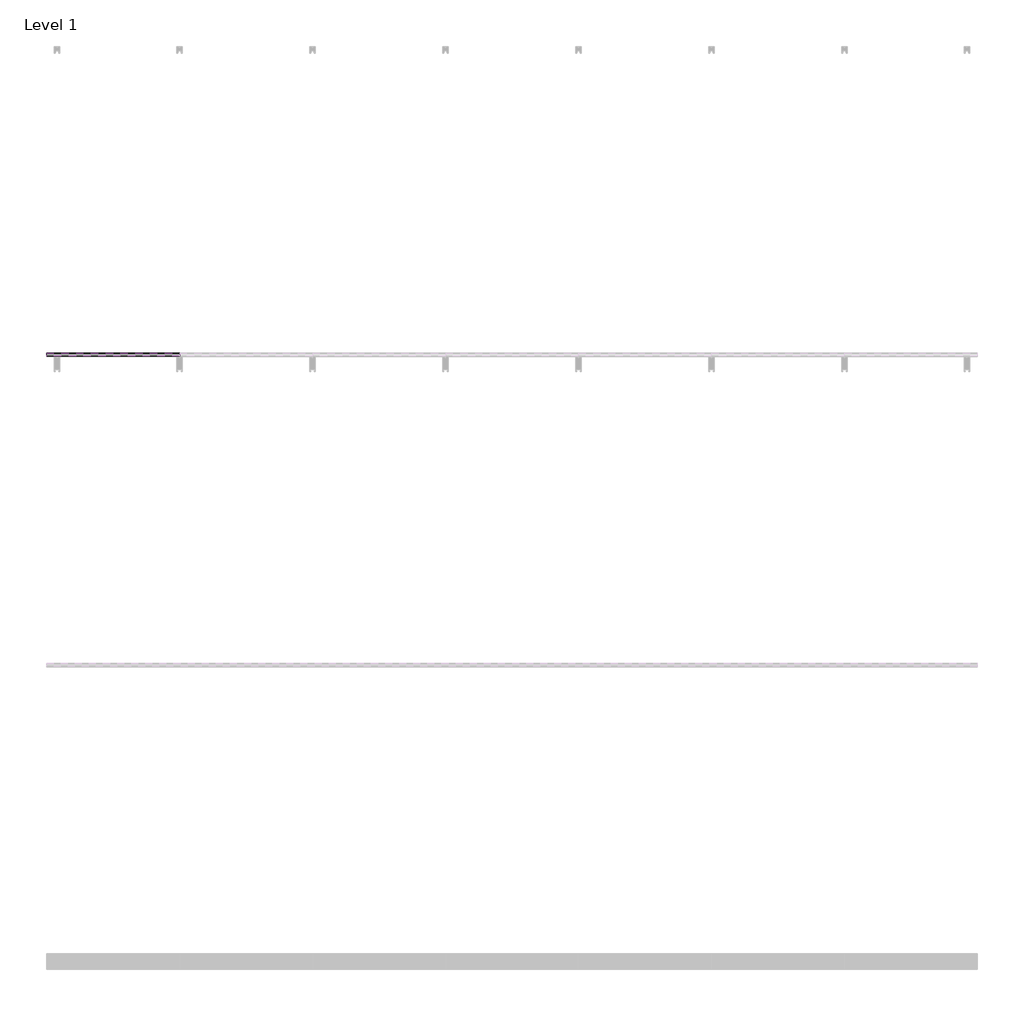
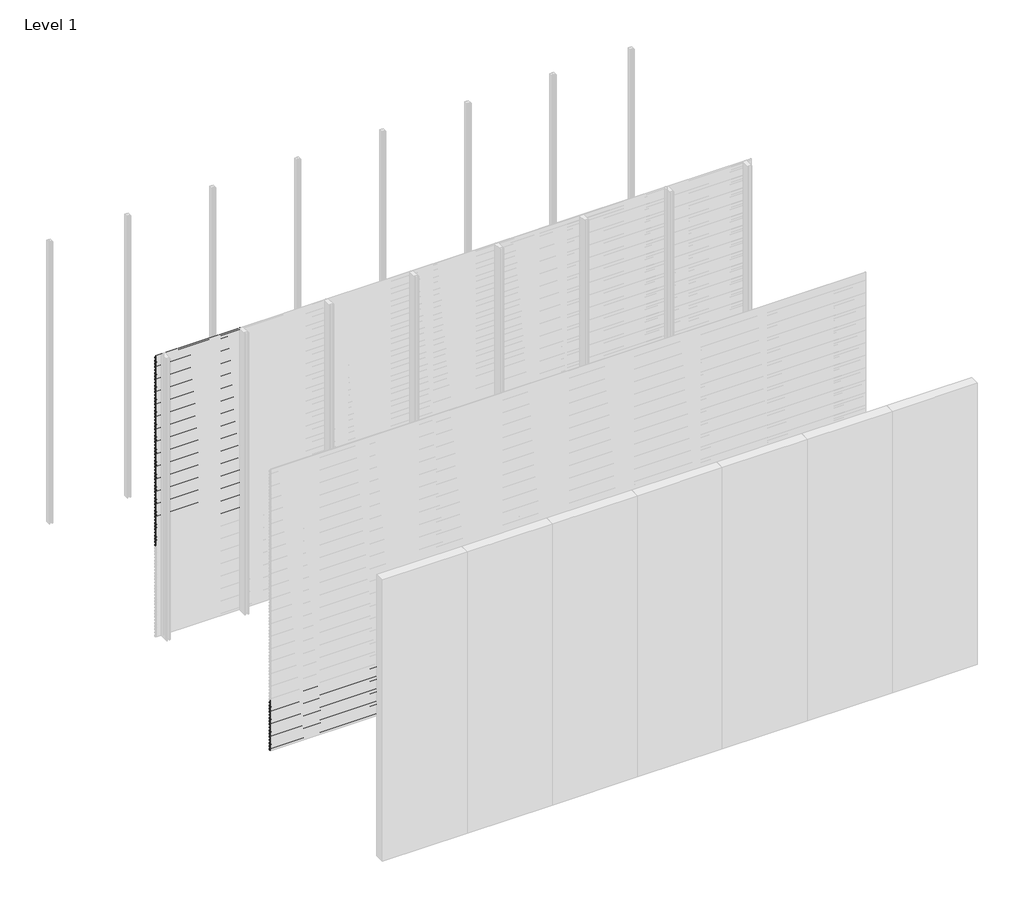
# One storey, part 61 of 96: 77 proxies.
"""IFC4 building model written with IfcOpenShell, lengths in millimetres."""

from ifc_helpers import new_model, si_unit, frame, origin, place, context, project, spatial, polyline, outline, extrude, element, save

model = new_model("IFC4")

# Units and contexts
model_context = context("Model", 3, world=origin())
ifc_project = project(units=[si_unit("LENGTHUNIT", "METRE", prefix="MILLI")], contexts=[model_context])

# Site, building, storey
site = spatial("IfcSite", under=ifc_project)
building = spatial("IfcBuilding", under=site)
storey = spatial("IfcBuildingStorey", under=building, Name="Level 1", Elevation=0.0)

# Proxies
placement = place(None, origin())
element("IfcBuildingElementProxy", 1, Name="Wall Sweeps", at=placement, inside=storey, context=model_context, shape_type="SweptSolid", body=[
    extrude(outline(polyline([(-17977.6, 2971.7655033), (-17977.6, 2957.4779188), (-17982.4114965, 2954.7), (-17982.4114965, 2955.9701706), (-17978.85, 2958.0264016), (-17978.85, 2971.0437382), (-17998.0, 2982.1000799), (-17998.0, 2997.0), (-17996.75, 2997.0), (-17996.75, 2982.8217609), (-17977.6, 2971.7655033)])), frame((0.0, 0.0, 0.0), z_axis=(1.0, 0.0, 0.0), x_axis=(0.0, 1.0, 0.0)), (0.0, 0.0, 1.0), 857.1428571),
])
element("IfcBuildingElementProxy", 2, Name="Wall Sweeps", at=placement, inside=storey, context=model_context, shape_type="SweptSolid", body=[
    extrude(outline(polyline([(-17977.6, 2938.4655033), (-17977.6, 2924.1779188), (-17982.4114965, 2921.4), (-17982.4114965, 2922.6701706), (-17978.85, 2924.7264016), (-17978.85, 2937.7437382), (-17998.0, 2948.8000799), (-17998.0, 2963.7), (-17996.75, 2963.7), (-17996.75, 2949.5217609), (-17977.6, 2938.4655033)])), frame((0.0, 0.0, 0.0), z_axis=(1.0, 0.0, 0.0), x_axis=(0.0, 1.0, 0.0)), (0.0, 0.0, 1.0), 857.1428571),
])
element("IfcBuildingElementProxy", 3, Name="Wall Sweeps", at=placement, inside=storey, context=model_context, shape_type="SweptSolid", body=[
    extrude(outline(polyline([(-17977.6, 2905.1655033), (-17977.6, 2890.8779188), (-17982.4114965, 2888.1), (-17982.4114965, 2889.3701706), (-17978.85, 2891.4264016), (-17978.85, 2904.4437382), (-17998.0, 2915.5000799), (-17998.0, 2930.4), (-17996.75, 2930.4), (-17996.75, 2916.2217609), (-17977.6, 2905.1655033)])), frame((0.0, 0.0, 0.0), z_axis=(1.0, 0.0, 0.0), x_axis=(0.0, 1.0, 0.0)), (0.0, 0.0, 1.0), 857.1428571),
])
element("IfcBuildingElementProxy", 4, Name="Wall Sweeps", at=placement, inside=storey, context=model_context, shape_type="SweptSolid", body=[
    extrude(outline(polyline([(-17977.6, 2871.8655033), (-17977.6, 2857.5779188), (-17982.4114965, 2854.8), (-17982.4114965, 2856.0701706), (-17978.85, 2858.1264016), (-17978.85, 2871.1437382), (-17998.0, 2882.2000799), (-17998.0, 2897.1), (-17996.75, 2897.1), (-17996.75, 2882.9217609), (-17977.6, 2871.8655033)])), frame((0.0, 0.0, 0.0), z_axis=(1.0, 0.0, 0.0), x_axis=(0.0, 1.0, 0.0)), (0.0, 0.0, 1.0), 857.1428571),
])
element("IfcBuildingElementProxy", 5, Name="Wall Sweeps", at=placement, inside=storey, context=model_context, shape_type="SweptSolid", body=[
    extrude(outline(polyline([(-17977.6, 2838.5655033), (-17977.6, 2824.2779188), (-17982.4114965, 2821.5), (-17982.4114965, 2822.7701706), (-17978.85, 2824.8264016), (-17978.85, 2837.8437382), (-17998.0, 2848.9000799), (-17998.0, 2863.8), (-17996.75, 2863.8), (-17996.75, 2849.6217609), (-17977.6, 2838.5655033)])), frame((0.0, 0.0, 0.0), z_axis=(1.0, 0.0, 0.0), x_axis=(0.0, 1.0, 0.0)), (0.0, 0.0, 1.0), 857.1428571),
])
element("IfcBuildingElementProxy", 6, Name="Wall Sweeps", at=placement, inside=storey, context=model_context, shape_type="SweptSolid", body=[
    extrude(outline(polyline([(-17977.6, 2805.2655033), (-17977.6, 2790.9779188), (-17982.4114965, 2788.2), (-17982.4114965, 2789.4701706), (-17978.85, 2791.5264016), (-17978.85, 2804.5437382), (-17998.0, 2815.6000799), (-17998.0, 2830.5), (-17996.75, 2830.5), (-17996.75, 2816.3217609), (-17977.6, 2805.2655033)])), frame((0.0, 0.0, 0.0), z_axis=(1.0, 0.0, 0.0), x_axis=(0.0, 1.0, 0.0)), (0.0, 0.0, 1.0), 857.1428571),
])
element("IfcBuildingElementProxy", 7, Name="Wall Sweeps", at=placement, inside=storey, context=model_context, shape_type="SweptSolid", body=[
    extrude(outline(polyline([(-17977.6, 2771.9655033), (-17977.6, 2757.6779188), (-17982.4114965, 2754.9), (-17982.4114965, 2756.1701706), (-17978.85, 2758.2264016), (-17978.85, 2771.2437382), (-17998.0, 2782.3000799), (-17998.0, 2797.2), (-17996.75, 2797.2), (-17996.75, 2783.0217609), (-17977.6, 2771.9655033)])), frame((0.0, 0.0, 0.0), z_axis=(1.0, 0.0, 0.0), x_axis=(0.0, 1.0, 0.0)), (0.0, 0.0, 1.0), 857.1428571),
])
element("IfcBuildingElementProxy", 8, Name="Wall Sweeps", at=placement, inside=storey, context=model_context, shape_type="SweptSolid", body=[
    extrude(outline(polyline([(-17977.6, 2738.6655033), (-17977.6, 2724.3779188), (-17982.4114965, 2721.6), (-17982.4114965, 2722.8701706), (-17978.85, 2724.9264016), (-17978.85, 2737.9437382), (-17998.0, 2749.0000799), (-17998.0, 2763.9), (-17996.75, 2763.9), (-17996.75, 2749.7217609), (-17977.6, 2738.6655033)])), frame((0.0, 0.0, 0.0), z_axis=(1.0, 0.0, 0.0), x_axis=(0.0, 1.0, 0.0)), (0.0, 0.0, 1.0), 857.1428571),
])
element("IfcBuildingElementProxy", 9, Name="Wall Sweeps", at=placement, inside=storey, context=model_context, shape_type="SweptSolid", body=[
    extrude(outline(polyline([(-17977.6, 2705.3655033), (-17977.6, 2691.0779188), (-17982.4114965, 2688.3), (-17982.4114965, 2689.5701706), (-17978.85, 2691.6264016), (-17978.85, 2704.6437382), (-17998.0, 2715.7000799), (-17998.0, 2730.6), (-17996.75, 2730.6), (-17996.75, 2716.4217609), (-17977.6, 2705.3655033)])), frame((0.0, 0.0, 0.0), z_axis=(1.0, 0.0, 0.0), x_axis=(0.0, 1.0, 0.0)), (0.0, 0.0, 1.0), 857.1428571),
])
element("IfcBuildingElementProxy", 10, Name="Wall Sweeps", at=placement, inside=storey, context=model_context, shape_type="SweptSolid", body=[
    extrude(outline(polyline([(-17977.6, 2672.0655033), (-17977.6, 2657.7779188), (-17982.4114965, 2655.0), (-17982.4114965, 2656.2701706), (-17978.85, 2658.3264016), (-17978.85, 2671.3437382), (-17998.0, 2682.4000799), (-17998.0, 2697.3), (-17996.75, 2697.3), (-17996.75, 2683.1217609), (-17977.6, 2672.0655033)])), frame((0.0, 0.0, 0.0), z_axis=(1.0, 0.0, 0.0), x_axis=(0.0, 1.0, 0.0)), (0.0, 0.0, 1.0), 857.1428571),
])
element("IfcBuildingElementProxy", 11, Name="Wall Sweeps", at=placement, inside=storey, context=model_context, shape_type="SweptSolid", body=[
    extrude(outline(polyline([(-17977.6, 2638.7655033), (-17977.6, 2624.4779188), (-17982.4114965, 2621.7), (-17982.4114965, 2622.9701706), (-17978.85, 2625.0264016), (-17978.85, 2638.0437382), (-17998.0, 2649.1000799), (-17998.0, 2664.0), (-17996.75, 2664.0), (-17996.75, 2649.8217609), (-17977.6, 2638.7655033)])), frame((0.0, 0.0, 0.0), z_axis=(1.0, 0.0, 0.0), x_axis=(0.0, 1.0, 0.0)), (0.0, 0.0, 1.0), 857.1428571),
])
element("IfcBuildingElementProxy", 12, Name="Wall Sweeps", at=placement, inside=storey, context=model_context, shape_type="SweptSolid", body=[
    extrude(outline(polyline([(-17977.6, 2605.4655033), (-17977.6, 2591.1779188), (-17982.4114965, 2588.4), (-17982.4114965, 2589.6701706), (-17978.85, 2591.7264016), (-17978.85, 2604.7437382), (-17998.0, 2615.8000799), (-17998.0, 2630.7), (-17996.75, 2630.7), (-17996.75, 2616.5217609), (-17977.6, 2605.4655033)])), frame((0.0, 0.0, 0.0), z_axis=(1.0, 0.0, 0.0), x_axis=(0.0, 1.0, 0.0)), (0.0, 0.0, 1.0), 857.1428571),
])
element("IfcBuildingElementProxy", 13, Name="Wall Sweeps", at=placement, inside=storey, context=model_context, shape_type="SweptSolid", body=[
    extrude(outline(polyline([(-17977.6, 2572.1655033), (-17977.6, 2557.8779188), (-17982.4114965, 2555.1), (-17982.4114965, 2556.3701706), (-17978.85, 2558.4264016), (-17978.85, 2571.4437382), (-17998.0, 2582.5000799), (-17998.0, 2597.4), (-17996.75, 2597.4), (-17996.75, 2583.2217609), (-17977.6, 2572.1655033)])), frame((0.0, 0.0, 0.0), z_axis=(1.0, 0.0, 0.0), x_axis=(0.0, 1.0, 0.0)), (0.0, 0.0, 1.0), 857.1428571),
])
element("IfcBuildingElementProxy", 14, Name="Wall Sweeps", at=placement, inside=storey, context=model_context, shape_type="SweptSolid", body=[
    extrude(outline(polyline([(-17977.6, 2538.8655033), (-17977.6, 2524.5779188), (-17982.4114965, 2521.8), (-17982.4114965, 2523.0701706), (-17978.85, 2525.1264016), (-17978.85, 2538.1437382), (-17998.0, 2549.2000799), (-17998.0, 2564.1), (-17996.75, 2564.1), (-17996.75, 2549.9217609), (-17977.6, 2538.8655033)])), frame((0.0, 0.0, 0.0), z_axis=(1.0, 0.0, 0.0), x_axis=(0.0, 1.0, 0.0)), (0.0, 0.0, 1.0), 857.1428571),
])
element("IfcBuildingElementProxy", 15, Name="Wall Sweeps", at=placement, inside=storey, context=model_context, shape_type="SweptSolid", body=[
    extrude(outline(polyline([(-17977.6, 2505.5655033), (-17977.6, 2491.2779188), (-17982.4114965, 2488.5), (-17982.4114965, 2489.7701706), (-17978.85, 2491.8264016), (-17978.85, 2504.8437382), (-17998.0, 2515.9000799), (-17998.0, 2530.8), (-17996.75, 2530.8), (-17996.75, 2516.6217609), (-17977.6, 2505.5655033)])), frame((0.0, 0.0, 0.0), z_axis=(1.0, 0.0, 0.0), x_axis=(0.0, 1.0, 0.0)), (0.0, 0.0, 1.0), 857.1428571),
])
element("IfcBuildingElementProxy", 16, Name="Wall Sweeps", at=placement, inside=storey, context=model_context, shape_type="SweptSolid", body=[
    extrude(outline(polyline([(-17977.6, 2472.2655033), (-17977.6, 2457.9779188), (-17982.4114965, 2455.2), (-17982.4114965, 2456.4701706), (-17978.85, 2458.5264016), (-17978.85, 2471.5437382), (-17998.0, 2482.6000799), (-17998.0, 2497.5), (-17996.75, 2497.5), (-17996.75, 2483.3217609), (-17977.6, 2472.2655033)])), frame((0.0, 0.0, 0.0), z_axis=(1.0, 0.0, 0.0), x_axis=(0.0, 1.0, 0.0)), (0.0, 0.0, 1.0), 857.1428571),
])
element("IfcBuildingElementProxy", 17, Name="Wall Sweeps", at=placement, inside=storey, context=model_context, shape_type="SweptSolid", body=[
    extrude(outline(polyline([(-17977.6, 2438.9655033), (-17977.6, 2424.6779188), (-17982.4114965, 2421.9), (-17982.4114965, 2423.1701706), (-17978.85, 2425.2264016), (-17978.85, 2438.2437382), (-17998.0, 2449.3000799), (-17998.0, 2464.2), (-17996.75, 2464.2), (-17996.75, 2450.0217609), (-17977.6, 2438.9655033)])), frame((0.0, 0.0, 0.0), z_axis=(1.0, 0.0, 0.0), x_axis=(0.0, 1.0, 0.0)), (0.0, 0.0, 1.0), 857.1428571),
])
element("IfcBuildingElementProxy", 18, Name="Wall Sweeps", at=placement, inside=storey, context=model_context, shape_type="SweptSolid", body=[
    extrude(outline(polyline([(-17977.6, 2405.6655033), (-17977.6, 2391.3779188), (-17982.4114965, 2388.6), (-17982.4114965, 2389.8701706), (-17978.85, 2391.9264016), (-17978.85, 2404.9437382), (-17998.0, 2416.0000799), (-17998.0, 2430.9), (-17996.75, 2430.9), (-17996.75, 2416.7217609), (-17977.6, 2405.6655033)])), frame((0.0, 0.0, 0.0), z_axis=(1.0, 0.0, 0.0), x_axis=(0.0, 1.0, 0.0)), (0.0, 0.0, 1.0), 857.1428571),
])
element("IfcBuildingElementProxy", 19, Name="Wall Sweeps", at=placement, inside=storey, context=model_context, shape_type="SweptSolid", body=[
    extrude(outline(polyline([(-17977.6, 2372.3655033), (-17977.6, 2358.0779188), (-17982.4114965, 2355.3), (-17982.4114965, 2356.5701706), (-17978.85, 2358.6264016), (-17978.85, 2371.6437382), (-17998.0, 2382.7000799), (-17998.0, 2397.6), (-17996.75, 2397.6), (-17996.75, 2383.4217609), (-17977.6, 2372.3655033)])), frame((0.0, 0.0, 0.0), z_axis=(1.0, 0.0, 0.0), x_axis=(0.0, 1.0, 0.0)), (0.0, 0.0, 1.0), 857.1428571),
])
element("IfcBuildingElementProxy", 20, Name="Wall Sweeps", at=placement, inside=storey, context=model_context, shape_type="SweptSolid", body=[
    extrude(outline(polyline([(-17977.6, 2339.0655033), (-17977.6, 2324.7779188), (-17982.4114965, 2322.0), (-17982.4114965, 2323.2701706), (-17978.85, 2325.3264016), (-17978.85, 2338.3437382), (-17998.0, 2349.4000799), (-17998.0, 2364.3), (-17996.75, 2364.3), (-17996.75, 2350.1217609), (-17977.6, 2339.0655033)])), frame((0.0, 0.0, 0.0), z_axis=(1.0, 0.0, 0.0), x_axis=(0.0, 1.0, 0.0)), (0.0, 0.0, 1.0), 857.1428571),
])
element("IfcBuildingElementProxy", 21, Name="Wall Sweeps", at=placement, inside=storey, context=model_context, shape_type="SweptSolid", body=[
    extrude(outline(polyline([(-17977.6, 2305.7655033), (-17977.6, 2291.4779188), (-17982.4114965, 2288.7), (-17982.4114965, 2289.9701706), (-17978.85, 2292.0264016), (-17978.85, 2305.0437382), (-17998.0, 2316.1000799), (-17998.0, 2331.0), (-17996.75, 2331.0), (-17996.75, 2316.8217609), (-17977.6, 2305.7655033)])), frame((0.0, 0.0, 0.0), z_axis=(1.0, 0.0, 0.0), x_axis=(0.0, 1.0, 0.0)), (0.0, 0.0, 1.0), 857.1428571),
])
element("IfcBuildingElementProxy", 22, Name="Wall Sweeps", at=placement, inside=storey, context=model_context, shape_type="SweptSolid", body=[
    extrude(outline(polyline([(-17977.6, 2272.4655033), (-17977.6, 2258.1779188), (-17982.4114965, 2255.4), (-17982.4114965, 2256.6701706), (-17978.85, 2258.7264016), (-17978.85, 2271.7437382), (-17998.0, 2282.8000799), (-17998.0, 2297.7), (-17996.75, 2297.7), (-17996.75, 2283.5217609), (-17977.6, 2272.4655033)])), frame((0.0, 0.0, 0.0), z_axis=(1.0, 0.0, 0.0), x_axis=(0.0, 1.0, 0.0)), (0.0, 0.0, 1.0), 857.1428571),
])
element("IfcBuildingElementProxy", 23, Name="Wall Sweeps", at=placement, inside=storey, context=model_context, shape_type="SweptSolid", body=[
    extrude(outline(polyline([(-17977.6, 2239.1655033), (-17977.6, 2224.8779188), (-17982.4114965, 2222.1), (-17982.4114965, 2223.3701706), (-17978.85, 2225.4264016), (-17978.85, 2238.4437382), (-17998.0, 2249.5000799), (-17998.0, 2264.4), (-17996.75, 2264.4), (-17996.75, 2250.2217609), (-17977.6, 2239.1655033)])), frame((0.0, 0.0, 0.0), z_axis=(1.0, 0.0, 0.0), x_axis=(0.0, 1.0, 0.0)), (0.0, 0.0, 1.0), 857.1428571),
])
element("IfcBuildingElementProxy", 24, Name="Wall Sweeps", at=placement, inside=storey, context=model_context, shape_type="SweptSolid", body=[
    extrude(outline(polyline([(-17977.6, 2205.8655033), (-17977.6, 2191.5779188), (-17982.4114965, 2188.8), (-17982.4114965, 2190.0701706), (-17978.85, 2192.1264016), (-17978.85, 2205.1437382), (-17998.0, 2216.2000799), (-17998.0, 2231.1), (-17996.75, 2231.1), (-17996.75, 2216.9217609), (-17977.6, 2205.8655033)])), frame((0.0, 0.0, 0.0), z_axis=(1.0, 0.0, 0.0), x_axis=(0.0, 1.0, 0.0)), (0.0, 0.0, 1.0), 857.1428571),
])
element("IfcBuildingElementProxy", 25, Name="Wall Sweeps", at=placement, inside=storey, context=model_context, shape_type="SweptSolid", body=[
    extrude(outline(polyline([(-17977.6, 2172.5655033), (-17977.6, 2158.2779188), (-17982.4114965, 2155.5), (-17982.4114965, 2156.7701706), (-17978.85, 2158.8264016), (-17978.85, 2171.8437382), (-17998.0, 2182.9000799), (-17998.0, 2197.8), (-17996.75, 2197.8), (-17996.75, 2183.6217609), (-17977.6, 2172.5655033)])), frame((0.0, 0.0, 0.0), z_axis=(1.0, 0.0, 0.0), x_axis=(0.0, 1.0, 0.0)), (0.0, 0.0, 1.0), 857.1428571),
])
element("IfcBuildingElementProxy", 26, Name="Wall Sweeps", at=placement, inside=storey, context=model_context, shape_type="SweptSolid", body=[
    extrude(outline(polyline([(-17977.6, 2139.2655033), (-17977.6, 2124.9779188), (-17982.4114965, 2122.2), (-17982.4114965, 2123.4701706), (-17978.85, 2125.5264016), (-17978.85, 2138.5437382), (-17998.0, 2149.6000799), (-17998.0, 2164.5), (-17996.75, 2164.5), (-17996.75, 2150.3217609), (-17977.6, 2139.2655033)])), frame((0.0, 0.0, 0.0), z_axis=(1.0, 0.0, 0.0), x_axis=(0.0, 1.0, 0.0)), (0.0, 0.0, 1.0), 857.1428571),
])
element("IfcBuildingElementProxy", 27, Name="Wall Sweeps", at=placement, inside=storey, context=model_context, shape_type="SweptSolid", body=[
    extrude(outline(polyline([(-17977.6, 2105.9655033), (-17977.6, 2091.6779188), (-17982.4114965, 2088.9), (-17982.4114965, 2090.1701706), (-17978.85, 2092.2264016), (-17978.85, 2105.2437382), (-17998.0, 2116.3000799), (-17998.0, 2131.2), (-17996.75, 2131.2), (-17996.75, 2117.0217609), (-17977.6, 2105.9655033)])), frame((0.0, 0.0, 0.0), z_axis=(1.0, 0.0, 0.0), x_axis=(0.0, 1.0, 0.0)), (0.0, 0.0, 1.0), 857.1428571),
])
element("IfcBuildingElementProxy", 28, Name="Wall Sweeps", at=placement, inside=storey, context=model_context, shape_type="SweptSolid", body=[
    extrude(outline(polyline([(-17977.6, 2072.6655033), (-17977.6, 2058.3779188), (-17982.4114965, 2055.6), (-17982.4114965, 2056.8701706), (-17978.85, 2058.9264016), (-17978.85, 2071.9437382), (-17998.0, 2083.0000799), (-17998.0, 2097.9), (-17996.75, 2097.9), (-17996.75, 2083.7217609), (-17977.6, 2072.6655033)])), frame((0.0, 0.0, 0.0), z_axis=(1.0, 0.0, 0.0), x_axis=(0.0, 1.0, 0.0)), (0.0, 0.0, 1.0), 857.1428571),
])
element("IfcBuildingElementProxy", 29, Name="Wall Sweeps", at=placement, inside=storey, context=model_context, shape_type="SweptSolid", body=[
    extrude(outline(polyline([(-17977.6, 2039.3655033), (-17977.6, 2025.0779188), (-17982.4114965, 2022.3), (-17982.4114965, 2023.5701706), (-17978.85, 2025.6264016), (-17978.85, 2038.6437382), (-17998.0, 2049.7000799), (-17998.0, 2064.6), (-17996.75, 2064.6), (-17996.75, 2050.4217609), (-17977.6, 2039.3655033)])), frame((0.0, 0.0, 0.0), z_axis=(1.0, 0.0, 0.0), x_axis=(0.0, 1.0, 0.0)), (0.0, 0.0, 1.0), 857.1428571),
])
element("IfcBuildingElementProxy", 30, Name="Wall Sweeps", at=placement, inside=storey, context=model_context, shape_type="SweptSolid", body=[
    extrude(outline(polyline([(-17977.6, 2006.0655033), (-17977.6, 1991.7779188), (-17982.4114965, 1989.0), (-17982.4114965, 1990.2701706), (-17978.85, 1992.3264016), (-17978.85, 2005.3437382), (-17998.0, 2016.4000799), (-17998.0, 2031.3), (-17996.75, 2031.3), (-17996.75, 2017.1217609), (-17977.6, 2006.0655033)])), frame((0.0, 0.0, 0.0), z_axis=(1.0, 0.0, 0.0), x_axis=(0.0, 1.0, 0.0)), (0.0, 0.0, 1.0), 857.1428571),
])
element("IfcBuildingElementProxy", 31, Name="Wall Sweeps", at=placement, inside=storey, context=model_context, shape_type="SweptSolid", body=[
    extrude(outline(polyline([(-17977.6, 1972.7655033), (-17977.6, 1958.4779188), (-17982.4114965, 1955.7), (-17982.4114965, 1956.9701706), (-17978.85, 1959.0264016), (-17978.85, 1972.0437382), (-17998.0, 1983.1000799), (-17998.0, 1998.0), (-17996.75, 1998.0), (-17996.75, 1983.8217609), (-17977.6, 1972.7655033)])), frame((0.0, 0.0, 0.0), z_axis=(1.0, 0.0, 0.0), x_axis=(0.0, 1.0, 0.0)), (0.0, 0.0, 1.0), 857.1428571),
])
element("IfcBuildingElementProxy", 32, Name="Wall Sweeps", at=placement, inside=storey, context=model_context, shape_type="SweptSolid", body=[
    extrude(outline(polyline([(-17977.6, 1939.4655033), (-17977.6, 1925.1779188), (-17982.4114965, 1922.4), (-17982.4114965, 1923.6701706), (-17978.85, 1925.7264016), (-17978.85, 1938.7437382), (-17998.0, 1949.8000799), (-17998.0, 1964.7), (-17996.75, 1964.7), (-17996.75, 1950.5217609), (-17977.6, 1939.4655033)])), frame((0.0, 0.0, 0.0), z_axis=(1.0, 0.0, 0.0), x_axis=(0.0, 1.0, 0.0)), (0.0, 0.0, 1.0), 857.1428571),
])
element("IfcBuildingElementProxy", 33, Name="Wall Sweeps", at=placement, inside=storey, context=model_context, shape_type="SweptSolid", body=[
    extrude(outline(polyline([(-17977.6, 1906.1655033), (-17977.6, 1891.8779188), (-17982.4114965, 1889.1), (-17982.4114965, 1890.3701706), (-17978.85, 1892.4264016), (-17978.85, 1905.4437382), (-17998.0, 1916.5000799), (-17998.0, 1931.4), (-17996.75, 1931.4), (-17996.75, 1917.2217609), (-17977.6, 1906.1655033)])), frame((0.0, 0.0, 0.0), z_axis=(1.0, 0.0, 0.0), x_axis=(0.0, 1.0, 0.0)), (0.0, 0.0, 1.0), 857.1428571),
])
element("IfcBuildingElementProxy", 34, Name="Wall Sweeps", at=placement, inside=storey, context=model_context, shape_type="SweptSolid", body=[
    extrude(outline(polyline([(-17977.6, 1872.8655033), (-17977.6, 1858.5779188), (-17982.4114965, 1855.8), (-17982.4114965, 1857.0701706), (-17978.85, 1859.1264016), (-17978.85, 1872.1437382), (-17998.0, 1883.2000799), (-17998.0, 1898.1), (-17996.75, 1898.1), (-17996.75, 1883.9217609), (-17977.6, 1872.8655033)])), frame((0.0, 0.0, 0.0), z_axis=(1.0, 0.0, 0.0), x_axis=(0.0, 1.0, 0.0)), (0.0, 0.0, 1.0), 857.1428571),
])
element("IfcBuildingElementProxy", 35, Name="Wall Sweeps", at=placement, inside=storey, context=model_context, shape_type="SweptSolid", body=[
    extrude(outline(polyline([(-17977.6, 1839.5655033), (-17977.6, 1825.2779188), (-17982.4114965, 1822.5), (-17982.4114965, 1823.7701706), (-17978.85, 1825.8264016), (-17978.85, 1838.8437382), (-17998.0, 1849.9000799), (-17998.0, 1864.8), (-17996.75, 1864.8), (-17996.75, 1850.6217609), (-17977.6, 1839.5655033)])), frame((0.0, 0.0, 0.0), z_axis=(1.0, 0.0, 0.0), x_axis=(0.0, 1.0, 0.0)), (0.0, 0.0, 1.0), 857.1428571),
])
element("IfcBuildingElementProxy", 36, Name="Wall Sweeps", at=placement, inside=storey, context=model_context, shape_type="SweptSolid", body=[
    extrude(outline(polyline([(-17977.6, 1806.2655033), (-17977.6, 1791.9779188), (-17982.4114965, 1789.2), (-17982.4114965, 1790.4701706), (-17978.85, 1792.5264016), (-17978.85, 1805.5437382), (-17998.0, 1816.6000799), (-17998.0, 1831.5), (-17996.75, 1831.5), (-17996.75, 1817.3217609), (-17977.6, 1806.2655033)])), frame((0.0, 0.0, 0.0), z_axis=(1.0, 0.0, 0.0), x_axis=(0.0, 1.0, 0.0)), (0.0, 0.0, 1.0), 857.1428571),
])
element("IfcBuildingElementProxy", 37, Name="Wall Sweeps", at=placement, inside=storey, context=model_context, shape_type="SweptSolid", body=[
    extrude(outline(polyline([(-17977.6, 1772.9655033), (-17977.6, 1758.6779188), (-17982.4114965, 1755.9), (-17982.4114965, 1757.1701706), (-17978.85, 1759.2264016), (-17978.85, 1772.2437382), (-17998.0, 1783.3000799), (-17998.0, 1798.2), (-17996.75, 1798.2), (-17996.75, 1784.0217609), (-17977.6, 1772.9655033)])), frame((0.0, 0.0, 0.0), z_axis=(1.0, 0.0, 0.0), x_axis=(0.0, 1.0, 0.0)), (0.0, 0.0, 1.0), 857.1428571),
])
element("IfcBuildingElementProxy", 38, Name="Wall Sweeps", at=placement, inside=storey, context=model_context, shape_type="SweptSolid", body=[
    extrude(outline(polyline([(-17977.6, 1739.6655033), (-17977.6, 1725.3779188), (-17982.4114965, 1722.6), (-17982.4114965, 1723.8701706), (-17978.85, 1725.9264016), (-17978.85, 1738.9437382), (-17998.0, 1750.0000799), (-17998.0, 1764.9), (-17996.75, 1764.9), (-17996.75, 1750.7217609), (-17977.6, 1739.6655033)])), frame((0.0, 0.0, 0.0), z_axis=(1.0, 0.0, 0.0), x_axis=(0.0, 1.0, 0.0)), (0.0, 0.0, 1.0), 857.1428571),
])
element("IfcBuildingElementProxy", 39, Name="Wall Sweeps", at=placement, inside=storey, context=model_context, shape_type="SweptSolid", body=[
    extrude(outline(polyline([(-17977.6, 1706.3655033), (-17977.6, 1692.0779188), (-17982.4114965, 1689.3), (-17982.4114965, 1690.5701706), (-17978.85, 1692.6264016), (-17978.85, 1705.6437382), (-17998.0, 1716.7000799), (-17998.0, 1731.6), (-17996.75, 1731.6), (-17996.75, 1717.4217609), (-17977.6, 1706.3655033)])), frame((0.0, 0.0, 0.0), z_axis=(1.0, 0.0, 0.0), x_axis=(0.0, 1.0, 0.0)), (0.0, 0.0, 1.0), 857.1428571),
])
element("IfcBuildingElementProxy", 40, Name="Wall Sweeps", at=placement, inside=storey, context=model_context, shape_type="SweptSolid", body=[
    extrude(outline(polyline([(-17977.6, 1673.0655033), (-17977.6, 1658.7779188), (-17982.4114965, 1656.0), (-17982.4114965, 1657.2701706), (-17978.85, 1659.3264016), (-17978.85, 1672.3437382), (-17998.0, 1683.4000799), (-17998.0, 1698.3), (-17996.75, 1698.3), (-17996.75, 1684.1217609), (-17977.6, 1673.0655033)])), frame((0.0, 0.0, 0.0), z_axis=(1.0, 0.0, 0.0), x_axis=(0.0, 1.0, 0.0)), (0.0, 0.0, 1.0), 857.1428571),
])
element("IfcBuildingElementProxy", 41, Name="Wall Sweeps", at=placement, inside=storey, context=model_context, shape_type="SweptSolid", body=[
    extrude(outline(polyline([(-17977.6, 1639.7655033), (-17977.6, 1625.4779188), (-17982.4114965, 1622.7), (-17982.4114965, 1623.9701706), (-17978.85, 1626.0264016), (-17978.85, 1639.0437382), (-17998.0, 1650.1000799), (-17998.0, 1665.0), (-17996.75, 1665.0), (-17996.75, 1650.8217609), (-17977.6, 1639.7655033)])), frame((0.0, 0.0, 0.0), z_axis=(1.0, 0.0, 0.0), x_axis=(0.0, 1.0, 0.0)), (0.0, 0.0, 1.0), 857.1428571),
])
element("IfcBuildingElementProxy", 42, Name="Wall Sweeps", at=placement, inside=storey, context=model_context, shape_type="SweptSolid", body=[
    extrude(outline(polyline([(-17977.6, 1606.4655033), (-17977.6, 1592.1779188), (-17982.4114965, 1589.4), (-17982.4114965, 1590.6701706), (-17978.85, 1592.7264016), (-17978.85, 1605.7437382), (-17998.0, 1616.8000799), (-17998.0, 1631.7), (-17996.75, 1631.7), (-17996.75, 1617.5217609), (-17977.6, 1606.4655033)])), frame((0.0, 0.0, 0.0), z_axis=(1.0, 0.0, 0.0), x_axis=(0.0, 1.0, 0.0)), (0.0, 0.0, 1.0), 857.1428571),
])
element("IfcBuildingElementProxy", 43, Name="Wall Sweeps", at=placement, inside=storey, context=model_context, shape_type="SweptSolid", body=[
    extrude(outline(polyline([(-17977.6, 1573.1655033), (-17977.6, 1558.8779188), (-17982.4114965, 1556.1), (-17982.4114965, 1557.3701706), (-17978.85, 1559.4264016), (-17978.85, 1572.4437382), (-17998.0, 1583.5000799), (-17998.0, 1598.4), (-17996.75, 1598.4), (-17996.75, 1584.2217609), (-17977.6, 1573.1655033)])), frame((0.0, 0.0, 0.0), z_axis=(1.0, 0.0, 0.0), x_axis=(0.0, 1.0, 0.0)), (0.0, 0.0, 1.0), 857.1428571),
])
element("IfcBuildingElementProxy", 44, Name="Wall Sweeps", at=placement, inside=storey, context=model_context, shape_type="SweptSolid", body=[
    extrude(outline(polyline([(-17977.6, 1539.8655033), (-17977.6, 1525.5779188), (-17982.4114965, 1522.8), (-17982.4114965, 1524.0701706), (-17978.85, 1526.1264016), (-17978.85, 1539.1437382), (-17998.0, 1550.2000799), (-17998.0, 1565.1), (-17996.75, 1565.1), (-17996.75, 1550.9217609), (-17977.6, 1539.8655033)])), frame((0.0, 0.0, 0.0), z_axis=(1.0, 0.0, 0.0), x_axis=(0.0, 1.0, 0.0)), (0.0, 0.0, 1.0), 857.1428571),
])
element("IfcBuildingElementProxy", 45, Name="Wall Sweeps", at=placement, inside=storey, context=model_context, shape_type="SweptSolid", body=[
    extrude(outline(polyline([(-17977.6, 1506.5655033), (-17977.6, 1492.2779188), (-17982.4114965, 1489.5), (-17982.4114965, 1490.7701706), (-17978.85, 1492.8264016), (-17978.85, 1505.8437382), (-17998.0, 1516.9000799), (-17998.0, 1531.8), (-17996.75, 1531.8), (-17996.75, 1517.6217609), (-17977.6, 1506.5655033)])), frame((0.0, 0.0, 0.0), z_axis=(1.0, 0.0, 0.0), x_axis=(0.0, 1.0, 0.0)), (0.0, 0.0, 1.0), 857.1428571),
])
element("IfcBuildingElementProxy", 46, Name="Wall Sweeps", at=placement, inside=storey, context=model_context, shape_type="SweptSolid", body=[
    extrude(outline(polyline([(-17977.6, 1473.2655033), (-17977.6, 1458.9779188), (-17982.4114965, 1456.2), (-17982.4114965, 1457.4701706), (-17978.85, 1459.5264016), (-17978.85, 1472.5437382), (-17998.0, 1483.6000799), (-17998.0, 1498.5), (-17996.75, 1498.5), (-17996.75, 1484.3217609), (-17977.6, 1473.2655033)])), frame((0.0, 0.0, 0.0), z_axis=(1.0, 0.0, 0.0), x_axis=(0.0, 1.0, 0.0)), (0.0, 0.0, 1.0), 857.1428571),
])
element("IfcBuildingElementProxy", 47, Name="Wall Sweeps", at=placement, inside=storey, context=model_context, shape_type="SweptSolid", body=[
    extrude(outline(polyline([(-17977.6, 1439.9655033), (-17977.6, 1425.6779188), (-17982.4114965, 1422.9), (-17982.4114965, 1424.1701706), (-17978.85, 1426.2264016), (-17978.85, 1439.2437382), (-17998.0, 1450.3000799), (-17998.0, 1465.2), (-17996.75, 1465.2), (-17996.75, 1451.0217609), (-17977.6, 1439.9655033)])), frame((0.0, 0.0, 0.0), z_axis=(1.0, 0.0, 0.0), x_axis=(0.0, 1.0, 0.0)), (0.0, 0.0, 1.0), 857.1428571),
])
element("IfcBuildingElementProxy", 48, Name="Wall Sweeps", at=placement, inside=storey, context=model_context, shape_type="SweptSolid", body=[
    extrude(outline(polyline([(-17977.6, 1406.6655033), (-17977.6, 1392.3779188), (-17982.4114965, 1389.6), (-17982.4114965, 1390.8701706), (-17978.85, 1392.9264016), (-17978.85, 1405.9437382), (-17998.0, 1417.0000799), (-17998.0, 1431.9), (-17996.75, 1431.9), (-17996.75, 1417.7217609), (-17977.6, 1406.6655033)])), frame((0.0, 0.0, 0.0), z_axis=(1.0, 0.0, 0.0), x_axis=(0.0, 1.0, 0.0)), (0.0, 0.0, 1.0), 857.1428571),
])
element("IfcBuildingElementProxy", 49, Name="Wall Sweeps", at=placement, inside=storey, context=model_context, shape_type="SweptSolid", body=[
    extrude(outline(polyline([(-17977.6, 1373.3655033), (-17977.6, 1359.0779188), (-17982.4114965, 1356.3), (-17982.4114965, 1357.5701706), (-17978.85, 1359.6264016), (-17978.85, 1372.6437382), (-17998.0, 1383.7000799), (-17998.0, 1398.6), (-17996.75, 1398.6), (-17996.75, 1384.4217609), (-17977.6, 1373.3655033)])), frame((0.0, 0.0, 0.0), z_axis=(1.0, 0.0, 0.0), x_axis=(0.0, 1.0, 0.0)), (0.0, 0.0, 1.0), 857.1428571),
])
element("IfcBuildingElementProxy", 50, Name="Wall Sweeps", at=placement, inside=storey, context=model_context, shape_type="SweptSolid", body=[
    extrude(outline(polyline([(-17977.6, 1340.0655033), (-17977.6, 1325.7779188), (-17982.4114965, 1323.0), (-17982.4114965, 1324.2701706), (-17978.85, 1326.3264016), (-17978.85, 1339.3437382), (-17998.0, 1350.4000799), (-17998.0, 1365.3), (-17996.75, 1365.3), (-17996.75, 1351.1217609), (-17977.6, 1340.0655033)])), frame((0.0, 0.0, 0.0), z_axis=(1.0, 0.0, 0.0), x_axis=(0.0, 1.0, 0.0)), (0.0, 0.0, 1.0), 857.1428571),
])
element("IfcBuildingElementProxy", 51, Name="Wall Sweeps", at=placement, inside=storey, context=model_context, shape_type="SweptSolid", body=[
    extrude(outline(polyline([(-17977.6, 1306.7655033), (-17977.6, 1292.4779188), (-17982.4114965, 1289.7), (-17982.4114965, 1290.9701706), (-17978.85, 1293.0264016), (-17978.85, 1306.0437382), (-17998.0, 1317.1000799), (-17998.0, 1332.0), (-17996.75, 1332.0), (-17996.75, 1317.8217609), (-17977.6, 1306.7655033)])), frame((0.0, 0.0, 0.0), z_axis=(1.0, 0.0, 0.0), x_axis=(0.0, 1.0, 0.0)), (0.0, 0.0, 1.0), 857.1428571),
])
element("IfcBuildingElementProxy", 52, Name="Wall Sweeps", at=placement, inside=storey, context=model_context, shape_type="SweptSolid", body=[
    extrude(outline(polyline([(-17977.6, 1273.4655033), (-17977.6, 1259.1779188), (-17982.4114965, 1256.4), (-17982.4114965, 1257.6701706), (-17978.85, 1259.7264016), (-17978.85, 1272.7437382), (-17998.0, 1283.8000799), (-17998.0, 1298.7), (-17996.75, 1298.7), (-17996.75, 1284.5217609), (-17977.6, 1273.4655033)])), frame((0.0, 0.0, 0.0), z_axis=(1.0, 0.0, 0.0), x_axis=(0.0, 1.0, 0.0)), (0.0, 0.0, 1.0), 857.1428571),
])
element("IfcBuildingElementProxy", 53, Name="Wall Sweeps", at=placement, inside=storey, context=model_context, shape_type="SweptSolid", body=[
    extrude(outline(polyline([(-17977.6, 1240.1655033), (-17977.6, 1225.8779188), (-17982.4114965, 1223.1), (-17982.4114965, 1224.3701706), (-17978.85, 1226.4264016), (-17978.85, 1239.4437382), (-17998.0, 1250.5000799), (-17998.0, 1265.4), (-17996.75, 1265.4), (-17996.75, 1251.2217609), (-17977.6, 1240.1655033)])), frame((0.0, 0.0, 0.0), z_axis=(1.0, 0.0, 0.0), x_axis=(0.0, 1.0, 0.0)), (0.0, 0.0, 1.0), 857.1428571),
])
element("IfcBuildingElementProxy", 54, Name="Wall Sweeps", at=placement, inside=storey, context=model_context, shape_type="SweptSolid", body=[
    extrude(outline(polyline([(-17977.6, 1206.8655033), (-17977.6, 1192.5779188), (-17982.4114965, 1189.8), (-17982.4114965, 1191.0701706), (-17978.85, 1193.1264016), (-17978.85, 1206.1437382), (-17998.0, 1217.2000799), (-17998.0, 1232.1), (-17996.75, 1232.1), (-17996.75, 1217.9217609), (-17977.6, 1206.8655033)])), frame((0.0, 0.0, 0.0), z_axis=(1.0, 0.0, 0.0), x_axis=(0.0, 1.0, 0.0)), (0.0, 0.0, 1.0), 857.1428571),
])
element("IfcBuildingElementProxy", 55, Name="Wall Sweeps", at=placement, inside=storey, context=model_context, shape_type="SweptSolid", body=[
    extrude(outline(polyline([(-17977.6, 1173.5655033), (-17977.6, 1159.2779188), (-17982.4114965, 1156.5), (-17982.4114965, 1157.7701706), (-17978.85, 1159.8264016), (-17978.85, 1172.8437382), (-17998.0, 1183.9000799), (-17998.0, 1198.8), (-17996.75, 1198.8), (-17996.75, 1184.6217609), (-17977.6, 1173.5655033)])), frame((0.0, 0.0, 0.0), z_axis=(1.0, 0.0, 0.0), x_axis=(0.0, 1.0, 0.0)), (0.0, 0.0, 1.0), 857.1428571),
])
element("IfcBuildingElementProxy", 56, Name="Wall Sweeps", at=placement, inside=storey, context=model_context, shape_type="SweptSolid", body=[
    extrude(outline(polyline([(-17977.6, 1140.2655033), (-17977.6, 1125.9779188), (-17982.4114965, 1123.2), (-17982.4114965, 1124.4701706), (-17978.85, 1126.5264016), (-17978.85, 1139.5437382), (-17998.0, 1150.6000799), (-17998.0, 1165.5), (-17996.75, 1165.5), (-17996.75, 1151.3217609), (-17977.6, 1140.2655033)])), frame((0.0, 0.0, 0.0), z_axis=(1.0, 0.0, 0.0), x_axis=(0.0, 1.0, 0.0)), (0.0, 0.0, 1.0), 857.1428571),
])
element("IfcBuildingElementProxy", 57, Name="Wall Sweeps", at=placement, inside=storey, context=model_context, shape_type="SweptSolid", body=[
    extrude(outline(polyline([(-17977.6, 1106.9655033), (-17977.6, 1092.6779188), (-17982.4114965, 1089.9), (-17982.4114965, 1091.1701706), (-17978.85, 1093.2264016), (-17978.85, 1106.2437382), (-17998.0, 1117.3000799), (-17998.0, 1132.2), (-17996.75, 1132.2), (-17996.75, 1118.0217609), (-17977.6, 1106.9655033)])), frame((0.0, 0.0, 0.0), z_axis=(1.0, 0.0, 0.0), x_axis=(0.0, 1.0, 0.0)), (0.0, 0.0, 1.0), 857.1428571),
])
element("IfcBuildingElementProxy", 58, Name="Wall Sweeps", at=placement, inside=storey, context=model_context, shape_type="SweptSolid", body=[
    extrude(outline(polyline([(-17977.6, 1073.6655033), (-17977.6, 1059.3779188), (-17982.4114965, 1056.6), (-17982.4114965, 1057.8701706), (-17978.85, 1059.9264016), (-17978.85, 1072.9437382), (-17998.0, 1084.0000799), (-17998.0, 1098.9), (-17996.75, 1098.9), (-17996.75, 1084.7217609), (-17977.6, 1073.6655033)])), frame((0.0, 0.0, 0.0), z_axis=(1.0, 0.0, 0.0), x_axis=(0.0, 1.0, 0.0)), (0.0, 0.0, 1.0), 857.1428571),
])
element("IfcBuildingElementProxy", 59, Name="Wall Sweeps", at=placement, inside=storey, context=model_context, shape_type="SweptSolid", body=[
    extrude(outline(polyline([(-17977.6, 1040.3655033), (-17977.6, 1026.0779188), (-17982.4114965, 1023.3), (-17982.4114965, 1024.5701706), (-17978.85, 1026.6264016), (-17978.85, 1039.6437382), (-17998.0, 1050.7000799), (-17998.0, 1065.6), (-17996.75, 1065.6), (-17996.75, 1051.4217609), (-17977.6, 1040.3655033)])), frame((0.0, 0.0, 0.0), z_axis=(1.0, 0.0, 0.0), x_axis=(0.0, 1.0, 0.0)), (0.0, 0.0, 1.0), 857.1428571),
])
element("IfcBuildingElementProxy", 60, Name="Wall Sweeps", at=placement, inside=storey, context=model_context, shape_type="SweptSolid", body=[
    extrude(outline(polyline([(-17977.6, 1007.0655033), (-17977.6, 992.7779188), (-17982.4114965, 990.0), (-17982.4114965, 991.2701706), (-17978.85, 993.3264016), (-17978.85, 1006.3437382), (-17998.0, 1017.4000799), (-17998.0, 1032.3), (-17996.75, 1032.3), (-17996.75, 1018.1217609), (-17977.6, 1007.0655033)])), frame((0.0, 0.0, 0.0), z_axis=(1.0, 0.0, 0.0), x_axis=(0.0, 1.0, 0.0)), (0.0, 0.0, 1.0), 857.1428571),
])
element("IfcBuildingElementProxy", 61, Name="Wall Sweeps", at=placement, inside=storey, context=model_context, shape_type="SweptSolid", body=[
    extrude(outline(polyline([(-17977.6, 973.7655033), (-17977.6, 959.4779188), (-17982.4114965, 956.7), (-17982.4114965, 957.9701706), (-17978.85, 960.0264016), (-17978.85, 973.0437382), (-17998.0, 984.1000799), (-17998.0, 999.0), (-17996.75, 999.0), (-17996.75, 984.8217609), (-17977.6, 973.7655033)])), frame((0.0, 0.0, 0.0), z_axis=(1.0, 0.0, 0.0), x_axis=(0.0, 1.0, 0.0)), (0.0, 0.0, 1.0), 857.1428571),
])
element("IfcBuildingElementProxy", 62, Name="Wall Sweeps", at=placement, inside=storey, context=model_context, shape_type="SweptSolid", body=[
    extrude(outline(polyline([(-19977.6, 507.5655033), (-19977.6, 493.2779188), (-19982.4114965, 490.5), (-19982.4114965, 491.7701706), (-19978.85, 493.8264016), (-19978.85, 506.8437382), (-19998.0, 517.9000799), (-19998.0, 532.8), (-19996.75, 532.8), (-19996.75, 518.6217609), (-19977.6, 507.5655033)])), frame((0.0, 0.0, 0.0), z_axis=(1.0, 0.0, 0.0), x_axis=(0.0, 1.0, 0.0)), (0.0, 0.0, 1.0), 6000.0),
])
element("IfcBuildingElementProxy", 63, Name="Wall Sweeps", at=placement, inside=storey, context=model_context, shape_type="SweptSolid", body=[
    extrude(outline(polyline([(-19977.6, 474.2655033), (-19977.6, 459.9779188), (-19982.4114965, 457.2), (-19982.4114965, 458.4701706), (-19978.85, 460.5264016), (-19978.85, 473.5437382), (-19998.0, 484.6000799), (-19998.0, 499.5), (-19996.75, 499.5), (-19996.75, 485.3217609), (-19977.6, 474.2655033)])), frame((0.0, 0.0, 0.0), z_axis=(1.0, 0.0, 0.0), x_axis=(0.0, 1.0, 0.0)), (0.0, 0.0, 1.0), 6000.0),
])
element("IfcBuildingElementProxy", 64, Name="Wall Sweeps", at=placement, inside=storey, context=model_context, shape_type="SweptSolid", body=[
    extrude(outline(polyline([(-19977.6, 440.9655033), (-19977.6, 426.6779188), (-19982.4114965, 423.9), (-19982.4114965, 425.1701706), (-19978.85, 427.2264016), (-19978.85, 440.2437382), (-19998.0, 451.3000799), (-19998.0, 466.2), (-19996.75, 466.2), (-19996.75, 452.0217609), (-19977.6, 440.9655033)])), frame((0.0, 0.0, 0.0), z_axis=(1.0, 0.0, 0.0), x_axis=(0.0, 1.0, 0.0)), (0.0, 0.0, 1.0), 6000.0),
])
element("IfcBuildingElementProxy", 65, Name="Wall Sweeps", at=placement, inside=storey, context=model_context, shape_type="SweptSolid", body=[
    extrude(outline(polyline([(-19977.6, 407.6655033), (-19977.6, 393.3779188), (-19982.4114965, 390.6), (-19982.4114965, 391.8701706), (-19978.85, 393.9264016), (-19978.85, 406.9437382), (-19998.0, 418.0000799), (-19998.0, 432.9), (-19996.75, 432.9), (-19996.75, 418.7217609), (-19977.6, 407.6655033)])), frame((0.0, 0.0, 0.0), z_axis=(1.0, 0.0, 0.0), x_axis=(0.0, 1.0, 0.0)), (0.0, 0.0, 1.0), 6000.0),
])
element("IfcBuildingElementProxy", 66, Name="Wall Sweeps", at=placement, inside=storey, context=model_context, shape_type="SweptSolid", body=[
    extrude(outline(polyline([(-19977.6, 374.3655033), (-19977.6, 360.0779188), (-19982.4114965, 357.3), (-19982.4114965, 358.5701706), (-19978.85, 360.6264016), (-19978.85, 373.6437382), (-19998.0, 384.7000799), (-19998.0, 399.6), (-19996.75, 399.6), (-19996.75, 385.4217609), (-19977.6, 374.3655033)])), frame((0.0, 0.0, 0.0), z_axis=(1.0, 0.0, 0.0), x_axis=(0.0, 1.0, 0.0)), (0.0, 0.0, 1.0), 6000.0),
])
element("IfcBuildingElementProxy", 67, Name="Wall Sweeps", at=placement, inside=storey, context=model_context, shape_type="SweptSolid", body=[
    extrude(outline(polyline([(-19977.6, 341.0655033), (-19977.6, 326.7779188), (-19982.4114965, 324.0), (-19982.4114965, 325.2701706), (-19978.85, 327.3264016), (-19978.85, 340.3437382), (-19998.0, 351.4000799), (-19998.0, 366.3), (-19996.75, 366.3), (-19996.75, 352.1217609), (-19977.6, 341.0655033)])), frame((0.0, 0.0, 0.0), z_axis=(1.0, 0.0, 0.0), x_axis=(0.0, 1.0, 0.0)), (0.0, 0.0, 1.0), 6000.0),
])
element("IfcBuildingElementProxy", 68, Name="Wall Sweeps", at=placement, inside=storey, context=model_context, shape_type="SweptSolid", body=[
    extrude(outline(polyline([(-19977.6, 307.7655033), (-19977.6, 293.4779188), (-19982.4114965, 290.7), (-19982.4114965, 291.9701706), (-19978.85, 294.0264016), (-19978.85, 307.0437382), (-19998.0, 318.1000799), (-19998.0, 333.0), (-19996.75, 333.0), (-19996.75, 318.8217609), (-19977.6, 307.7655033)])), frame((0.0, 0.0, 0.0), z_axis=(1.0, 0.0, 0.0), x_axis=(0.0, 1.0, 0.0)), (0.0, 0.0, 1.0), 6000.0),
])
element("IfcBuildingElementProxy", 69, Name="Wall Sweeps", at=placement, inside=storey, context=model_context, shape_type="SweptSolid", body=[
    extrude(outline(polyline([(-19977.6, 274.4655033), (-19977.6, 260.1779188), (-19982.4114965, 257.4), (-19982.4114965, 258.6701706), (-19978.85, 260.7264016), (-19978.85, 273.7437382), (-19998.0, 284.8000799), (-19998.0, 299.7), (-19996.75, 299.7), (-19996.75, 285.5217609), (-19977.6, 274.4655033)])), frame((0.0, 0.0, 0.0), z_axis=(1.0, 0.0, 0.0), x_axis=(0.0, 1.0, 0.0)), (0.0, 0.0, 1.0), 6000.0),
])
element("IfcBuildingElementProxy", 70, Name="Wall Sweeps", at=placement, inside=storey, context=model_context, shape_type="SweptSolid", body=[
    extrude(outline(polyline([(-19977.6, 241.1655033), (-19977.6, 226.8779188), (-19982.4114965, 224.1), (-19982.4114965, 225.3701706), (-19978.85, 227.4264016), (-19978.85, 240.4437382), (-19998.0, 251.5000799), (-19998.0, 266.4), (-19996.75, 266.4), (-19996.75, 252.2217609), (-19977.6, 241.1655033)])), frame((0.0, 0.0, 0.0), z_axis=(1.0, 0.0, 0.0), x_axis=(0.0, 1.0, 0.0)), (0.0, 0.0, 1.0), 6000.0),
])
element("IfcBuildingElementProxy", 71, Name="Wall Sweeps", at=placement, inside=storey, context=model_context, shape_type="SweptSolid", body=[
    extrude(outline(polyline([(-19977.6, 207.8655033), (-19977.6, 193.5779188), (-19982.4114965, 190.8), (-19982.4114965, 192.0701706), (-19978.85, 194.1264016), (-19978.85, 207.1437382), (-19998.0, 218.2000799), (-19998.0, 233.1), (-19996.75, 233.1), (-19996.75, 218.9217609), (-19977.6, 207.8655033)])), frame((0.0, 0.0, 0.0), z_axis=(1.0, 0.0, 0.0), x_axis=(0.0, 1.0, 0.0)), (0.0, 0.0, 1.0), 6000.0),
])
element("IfcBuildingElementProxy", 72, Name="Wall Sweeps", at=placement, inside=storey, context=model_context, shape_type="SweptSolid", body=[
    extrude(outline(polyline([(-19977.6, 174.5655033), (-19977.6, 160.2779188), (-19982.4114965, 157.5), (-19982.4114965, 158.7701706), (-19978.85, 160.8264016), (-19978.85, 173.8437382), (-19998.0, 184.9000799), (-19998.0, 199.8), (-19996.75, 199.8), (-19996.75, 185.6217609), (-19977.6, 174.5655033)])), frame((0.0, 0.0, 0.0), z_axis=(1.0, 0.0, 0.0), x_axis=(0.0, 1.0, 0.0)), (0.0, 0.0, 1.0), 6000.0),
])
element("IfcBuildingElementProxy", 73, Name="Wall Sweeps", at=placement, inside=storey, context=model_context, shape_type="SweptSolid", body=[
    extrude(outline(polyline([(-19977.6, 141.2655033), (-19977.6, 126.9779188), (-19982.4114965, 124.2), (-19982.4114965, 125.4701706), (-19978.85, 127.5264016), (-19978.85, 140.5437382), (-19998.0, 151.6000799), (-19998.0, 166.5), (-19996.75, 166.5), (-19996.75, 152.3217609), (-19977.6, 141.2655033)])), frame((0.0, 0.0, 0.0), z_axis=(1.0, 0.0, 0.0), x_axis=(0.0, 1.0, 0.0)), (0.0, 0.0, 1.0), 6000.0),
])
element("IfcBuildingElementProxy", 74, Name="Wall Sweeps", at=placement, inside=storey, context=model_context, shape_type="SweptSolid", body=[
    extrude(outline(polyline([(-19977.6, 107.9655033), (-19977.6, 93.6779188), (-19982.4114965, 90.9), (-19982.4114965, 92.1701706), (-19978.85, 94.2264016), (-19978.85, 107.2437382), (-19998.0, 118.3000799), (-19998.0, 133.2), (-19996.75, 133.2), (-19996.75, 119.0217609), (-19977.6, 107.9655033)])), frame((0.0, 0.0, 0.0), z_axis=(1.0, 0.0, 0.0), x_axis=(0.0, 1.0, 0.0)), (0.0, 0.0, 1.0), 6000.0),
])
element("IfcBuildingElementProxy", 75, Name="Wall Sweeps", at=placement, inside=storey, context=model_context, shape_type="SweptSolid", body=[
    extrude(outline(polyline([(-19977.6, 74.6655033), (-19977.6, 60.3779188), (-19982.4114965, 57.6), (-19982.4114965, 58.8701706), (-19978.85, 60.9264016), (-19978.85, 73.9437382), (-19998.0, 85.0000799), (-19998.0, 99.9), (-19996.75, 99.9), (-19996.75, 85.7217609), (-19977.6, 74.6655033)])), frame((0.0, 0.0, 0.0), z_axis=(1.0, 0.0, 0.0), x_axis=(0.0, 1.0, 0.0)), (0.0, 0.0, 1.0), 6000.0),
])
element("IfcBuildingElementProxy", 76, Name="Wall Sweeps", at=placement, inside=storey, context=model_context, shape_type="SweptSolid", body=[
    extrude(outline(polyline([(-19977.6, 41.3655033), (-19977.6, 27.0779188), (-19982.4114965, 24.3), (-19982.4114965, 25.5701706), (-19978.85, 27.6264016), (-19978.85, 40.6437382), (-19998.0, 51.7000799), (-19998.0, 66.6), (-19996.75, 66.6), (-19996.75, 52.4217609), (-19977.6, 41.3655033)])), frame((0.0, 0.0, 0.0), z_axis=(1.0, 0.0, 0.0), x_axis=(0.0, 1.0, 0.0)), (0.0, 0.0, 1.0), 6000.0),
])
element("IfcBuildingElementProxy", 77, Name="Wall Sweeps", at=placement, inside=storey, context=model_context, shape_type="SweptSolid", body=[
    extrude(outline(polyline([(-19977.6, 8.0655033), (-19977.6, -6.2220812), (-19982.4114965, -9.0), (-19982.4114965, -7.7298294), (-19978.85, -5.6735984), (-19978.85, 7.3437382), (-19998.0, 18.4000799), (-19998.0, 33.3), (-19996.75, 33.3), (-19996.75, 19.1217609), (-19977.6, 8.0655033)])), frame((0.0, 0.0, 0.0), z_axis=(1.0, 0.0, 0.0), x_axis=(0.0, 1.0, 0.0)), (0.0, 0.0, 1.0), 6000.0),
])

save(model, "model.ifc")
